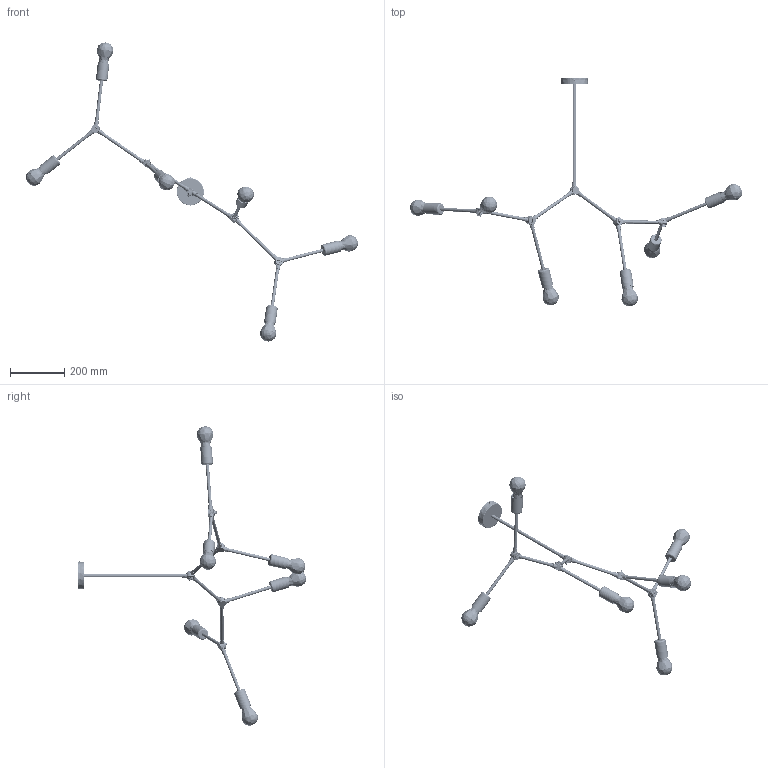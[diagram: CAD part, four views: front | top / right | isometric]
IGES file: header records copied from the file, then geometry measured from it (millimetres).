
Start section: SolidWorks IGES file using analytic representation for surfaces
Global section: file name: F:\GABRYSIA\MODELE 3D\TWIG\Z³o¿enie TWIG VI 9138.IGS; native system: SolidWorks 2017; preprocessor: SolidWorks 2017; author: Togambi; date: 190627.183132; units: millimetre
Bounding box: 1221.21 x 840.73 x 1100.81 mm (x, y, z)
Surface area: 607847.4 mm2 (no closed solid volume)
Topology: 0 solids, 0 shells, 3064 faces, 38377 edges, 38239 vertices
Faces by surface type: bspline 1966, revolution 1098
